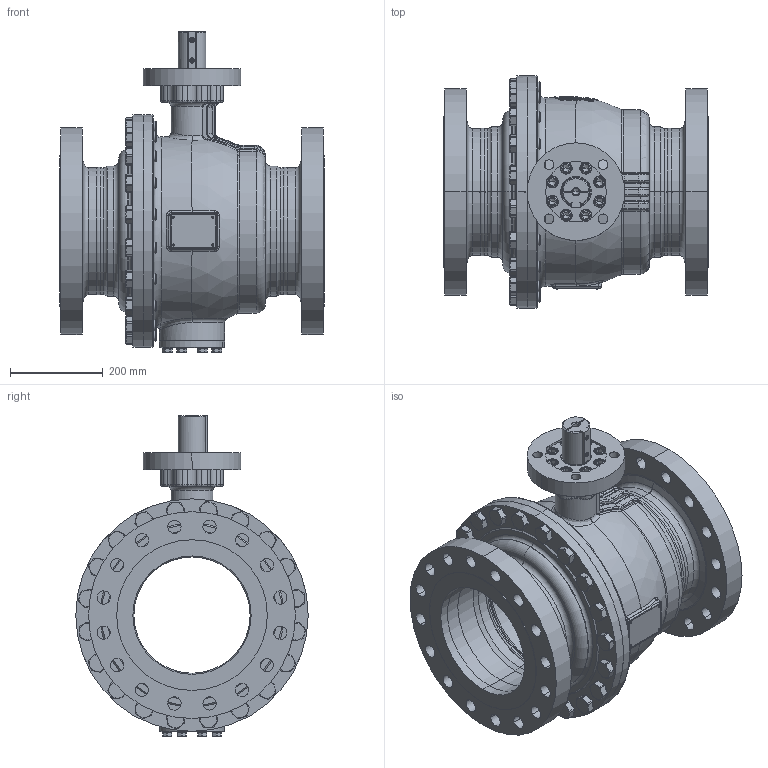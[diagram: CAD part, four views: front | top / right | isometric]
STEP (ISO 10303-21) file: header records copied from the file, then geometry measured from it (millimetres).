
FILE_DESCRIPTION((''),'2;1');
FILE_NAME('KHI-F_250_CL300-F16-P_SW0001','2026-02-05T14:02:39',('fischerkl'),('KLINGER'),'CREO PARAMETRIC BY PTC INC, 2023014','CREO PARAMETRIC BY PTC INC, 2023014','');
FILE_SCHEMA(('CONFIG_CONTROL_DESIGN'));
Products named in the file (1): KHI-F_250_CL300-F16-P_SW0001
Bounding box: 568 x 500 x 689.8 mm (x, y, z)
Volume: 26681299 mm3; surface area: 3604801.9 mm2
Topology: 1 solids, 4 shells, 3293 faces, 8353 edges, 5206 vertices
Faces by surface type: plane 1683, cylinder 784, cone 387, torus 312, bspline 97, sphere 30
Entity records: 134814 total; most frequent: CARTESIAN_POINT 56334, ORIENTED_EDGE 16646, DIRECTION 16146, EDGE_CURVE 8323, AXIS2_PLACEMENT_3D 6105, VERTEX_POINT 5206, VECTOR 3936, LINE 3936
